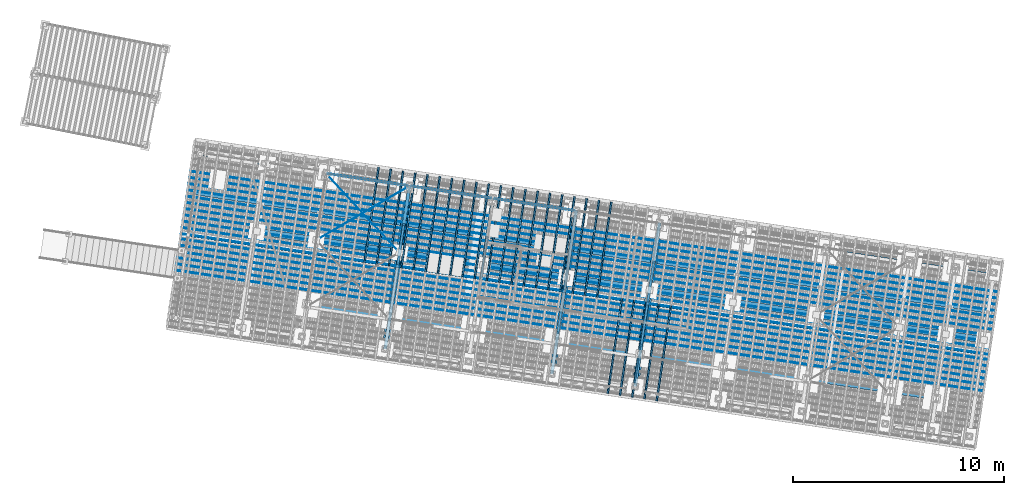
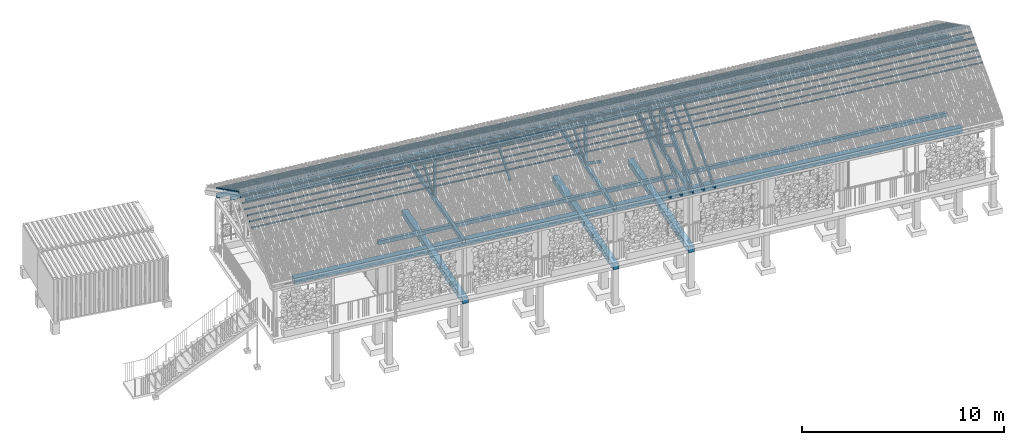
# One storey, part 81 of 131: 63 members, 11 beams, 2 elements without a shape of their own.
"""IFC4 building model written with IfcOpenShell, lengths in metres."""

from ifc_helpers import new_model, si_unit, direction, frame, origin_with_axes, place, context, subcontext, project, spatial, polyline, rectangle, outline, extrude, material, material_profile, profile_set, profile_usage, type_object, element, aggregate, save


model = new_model("IFC4")

# Units and contexts
model_context = context("Model", 3, precision=1e-05, world=origin_with_axes(), true_north=direction((0.0, 1.0)))
body_context = subcontext(model_context, "Body", "Model", "MODEL_VIEW")
ifc_project = project(units=[si_unit("VOLUMEUNIT", "CUBIC_METRE"), si_unit("LENGTHUNIT", "METRE"), si_unit("AREAUNIT", "SQUARE_METRE")], contexts=[model_context])

# Site, building, storey
site_placement = place(None, origin_with_axes())
site = spatial("IfcSite", under=ifc_project, at=site_placement, Name="Lares · Rua das Mercês · artigo 4771")
building_placement = place(site_placement, frame((15.0, 9.7, 15.8), z_axis=(0.0, 0.0, 1.0), x_axis=(0.989015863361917, -0.147809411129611, 0.0)))
building = spatial("IfcBuilding", under=site, at=building_placement, Name="Casa Sobreposta")
storey_placement = place(building_placement, origin_with_axes())
storey = spatial("IfcBuildingStorey", under=building, at=storey_placement, Name="00 · Habitação e estacionamento", Elevation=15.8)

# Beam
ifc_material_1 = material(Name="Madeira / Bauholz", Category="wood")
ifc_material_profile_1 = material_profile(ifc_material_1, rectangle(XDim=0.16, YDim=0.22))
ifc_profile_set_1 = profile_set([ifc_material_profile_1], Name="TIMBER0.160x0.220")
ifc_profile_usage_1 = profile_usage(ifc_profile_set_1)
beam_type_1 = type_object("IfcBeamType", Name="TIMBER0.160x0.220 / timber", PredefinedType="NOTDEFINED", material=ifc_profile_set_1)
beam_1_placement = place(storey_placement, frame((0.0, 0.12, 3.0), z_axis=(1.0, 0.0, 0.0), x_axis=(0.0, -1.0, 0.0)))
element("IfcBeam", 1, at=beam_1_placement, inside=storey, type_object=beam_type_1, material=ifc_profile_usage_1, Name="Cobertura · frechal longitudinal", context=body_context, shape_type="SweptSolid", body=[
    extrude(rectangle(XDim=0.16, YDim=0.22), origin_with_axes(), (0.0, 0.0, 1.0), 30.22),
])

# Members
ifc_material_2 = material(Name="Aço pintado / Stahl lackiert", Category="steel")
ifc_material_profile_2 = material_profile(ifc_material_2, rectangle(XDim=0.035, YDim=0.035))
ifc_profile_set_2 = profile_set([ifc_material_profile_2], Name="R0.035")
ifc_profile_usage_2 = profile_usage(ifc_profile_set_2)
member_type_1 = type_object("IfcMemberType", Name="R0.035 / steel", PredefinedType="NOTDEFINED", material=ifc_profile_set_2)
member_1_placement = place(storey_placement, frame((0.08, 6.4, 2.35), z_axis=(1.0, 0.0, 0.0), x_axis=(0.0, -1.0, 0.0)))
element("IfcMember", 2, at=member_1_placement, inside=storey, type_object=member_type_1, material=ifc_profile_usage_2, Name="Rasgo norte 1 · travessa", context=body_context, shape_type="SweptSolid", body=[
    extrude(rectangle(XDim=0.035, YDim=0.035), origin_with_axes(), (0.0, 0.0, 1.0), 3.84),
])
ifc_profile_usage_3 = profile_usage(ifc_profile_set_2)
member_2_placement = place(storey_placement, frame((0.08, 6.4, 2.7), z_axis=(1.0, 0.0, 0.0), x_axis=(0.0, -1.0, 0.0)))
element("IfcMember", 3, at=member_2_placement, inside=storey, type_object=member_type_1, material=ifc_profile_usage_3, Name="Rasgo norte 1 · travessa", context=body_context, shape_type="SweptSolid", body=[
    extrude(rectangle(XDim=0.035, YDim=0.035), origin_with_axes(), (0.0, 0.0, 1.0), 3.84),
])
ifc_profile_usage_4 = profile_usage(ifc_profile_set_2)
member_3_placement = place(storey_placement, frame((4.08, 6.4, 2.35), z_axis=(1.0, 0.0, 0.0), x_axis=(0.0, -1.0, 0.0)))
element("IfcMember", 4, at=member_3_placement, inside=storey, type_object=member_type_1, material=ifc_profile_usage_4, Name="Rasgo norte 2 · travessa", context=body_context, shape_type="SweptSolid", body=[
    extrude(rectangle(XDim=0.035, YDim=0.035), origin_with_axes(), (0.0, 0.0, 1.0), 3.84),
])
ifc_profile_usage_5 = profile_usage(ifc_profile_set_2)
member_4_placement = place(storey_placement, frame((4.08, 6.4, 2.7), z_axis=(1.0, 0.0, 0.0), x_axis=(0.0, -1.0, 0.0)))
element("IfcMember", 5, at=member_4_placement, inside=storey, type_object=member_type_1, material=ifc_profile_usage_5, Name="Rasgo norte 2 · travessa", context=body_context, shape_type="SweptSolid", body=[
    extrude(rectangle(XDim=0.035, YDim=0.035), origin_with_axes(), (0.0, 0.0, 1.0), 3.84),
])
ifc_profile_usage_6 = profile_usage(ifc_profile_set_2)
member_5_placement = place(storey_placement, frame((8.08, 6.4, 2.35), z_axis=(1.0, 0.0, 0.0), x_axis=(0.0, -1.0, 0.0)))
element("IfcMember", 6, at=member_5_placement, inside=storey, type_object=member_type_1, material=ifc_profile_usage_6, Name="Rasgo norte 3 · travessa", context=body_context, shape_type="SweptSolid", body=[
    extrude(rectangle(XDim=0.035, YDim=0.035), origin_with_axes(), (0.0, 0.0, 1.0), 3.84),
])
ifc_profile_usage_7 = profile_usage(ifc_profile_set_2)
member_6_placement = place(storey_placement, frame((8.08, 6.4, 2.7), z_axis=(1.0, 0.0, 0.0), x_axis=(0.0, -1.0, 0.0)))
element("IfcMember", 7, at=member_6_placement, inside=storey, type_object=member_type_1, material=ifc_profile_usage_7, Name="Rasgo norte 3 · travessa", context=body_context, shape_type="SweptSolid", body=[
    extrude(rectangle(XDim=0.035, YDim=0.035), origin_with_axes(), (0.0, 0.0, 1.0), 3.84),
])

# Roof, beams, members
roof_placement = place(storey_placement, origin_with_axes())
roof = element("IfcRoof", 8, at=roof_placement, inside=storey, material=ifc_material_1, Name="Cobertura de telha · duas águas 30 graus", PredefinedType="GABLE_ROOF")
ifc_material_profile_3 = material_profile(ifc_material_1, rectangle(XDim=0.16, YDim=0.24))
ifc_profile_set_3 = profile_set([ifc_material_profile_3], Name="TIMBER0.160x0.240")
ifc_profile_usage_8 = profile_usage(ifc_profile_set_3)
beam_type_2 = type_object("IfcBeamType", Name="TIMBER0.160x0.240 / timber", PredefinedType="NOTDEFINED", material=ifc_profile_set_3)
beam_2_placement = place(roof_placement, frame((4.0, -1.43, 3.02), z_axis=(0.0, 1.0, 0.0), x_axis=(1.0, 0.0, 0.0)))
beam_2 = element("IfcBeam", 9, at=beam_2_placement, type_object=beam_type_2, material=ifc_profile_usage_8, Name="Tesoura · tirante inferior", context=body_context, shape_type="SweptSolid", body=[
    extrude(rectangle(XDim=0.16, YDim=0.24), origin_with_axes(), (0.0, 0.0, 1.0), 7.86),
])
ifc_profile_usage_9 = profile_usage(ifc_profile_set_3)
beam_3_placement = place(roof_placement, frame((12.0, -1.43, 3.02), z_axis=(0.0, 1.0, 0.0), x_axis=(1.0, 0.0, 0.0)))
beam_3 = element("IfcBeam", 10, at=beam_3_placement, type_object=beam_type_2, material=ifc_profile_usage_9, Name="Tesoura · tirante inferior", context=body_context, shape_type="SweptSolid", body=[
    extrude(rectangle(XDim=0.16, YDim=0.24), origin_with_axes(), (0.0, 0.0, 1.0), 7.86),
])
ifc_profile_usage_10 = profile_usage(ifc_profile_set_3)
beam_4_placement = place(roof_placement, frame((16.0, -1.43, 3.02), z_axis=(0.0, 1.0, 0.0), x_axis=(1.0, 0.0, 0.0)))
beam_4 = element("IfcBeam", 11, at=beam_4_placement, type_object=beam_type_2, material=ifc_profile_usage_10, Name="Tesoura · tirante inferior", context=body_context, shape_type="SweptSolid", body=[
    extrude(rectangle(XDim=0.16, YDim=0.24), origin_with_axes(), (0.0, 0.0, 1.0), 7.86),
])
ifc_material_profile_4 = material_profile(ifc_material_1, rectangle(XDim=0.16, YDim=0.24))
ifc_profile_set_4 = profile_set([ifc_material_profile_4], Name="TIMBER0.160x0.240")
ifc_profile_usage_11 = profile_usage(ifc_profile_set_4)
member_type_2 = type_object("IfcMemberType", Name="TIMBER0.160x0.240 / timber", PredefinedType="NOTDEFINED", material=ifc_profile_set_4)
member_7_placement = place(roof_placement, frame((4.0, 2.55, 5.74420869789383), z_axis=(0.0, 0.866025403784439, -0.5), x_axis=(1.0, 0.0, 0.0)))
member_7 = element("IfcMember", 12, at=member_7_placement, type_object=member_type_2, material=ifc_profile_usage_11, Name="Tesoura · perna", context=body_context, shape_type="SweptSolid", body=[
    extrude(rectangle(XDim=0.16, YDim=0.24), origin_with_axes(), (0.0, 0.0, 1.0), 4.4802380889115),
])
ifc_profile_usage_12 = profile_usage(ifc_profile_set_4)
member_8_placement = place(roof_placement, frame((8.0, 2.55, 5.74420869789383), z_axis=(0.0, 0.866025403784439, -0.5), x_axis=(1.0, 0.0, 0.0)))
member_8 = element("IfcMember", 13, at=member_8_placement, type_object=member_type_2, material=ifc_profile_usage_12, Name="Tesoura · perna", context=body_context, shape_type="SweptSolid", body=[
    extrude(rectangle(XDim=0.16, YDim=0.24), origin_with_axes(), (0.0, 0.0, 1.0), 4.4802380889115),
])
ifc_profile_usage_13 = profile_usage(ifc_profile_set_4)
member_9_placement = place(roof_placement, frame((12.0, 2.55, 5.74420869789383), z_axis=(0.0, 0.866025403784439, -0.5), x_axis=(1.0, 0.0, 0.0)))
member_9 = element("IfcMember", 14, at=member_9_placement, type_object=member_type_2, material=ifc_profile_usage_13, Name="Tesoura · perna", context=body_context, shape_type="SweptSolid", body=[
    extrude(rectangle(XDim=0.16, YDim=0.24), origin_with_axes(), (0.0, 0.0, 1.0), 4.4802380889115),
])
ifc_profile_usage_14 = profile_usage(ifc_profile_set_4)
member_10_placement = place(roof_placement, frame((16.0, -1.43, 3.44635462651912), z_axis=(0.0, 0.866025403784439, 0.5), x_axis=(1.0, 0.0, 0.0)))
member_10 = element("IfcMember", 15, at=member_10_placement, type_object=member_type_2, material=ifc_profile_usage_14, Name="Tesoura · perna", context=body_context, shape_type="SweptSolid", body=[
    extrude(rectangle(XDim=0.16, YDim=0.24), origin_with_axes(), (0.0, 0.0, 1.0), 4.59570814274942),
])
ifc_material_profile_5 = material_profile(ifc_material_1, rectangle(XDim=0.14, YDim=0.14))
ifc_profile_set_5 = profile_set([ifc_material_profile_5], Name="TIMBER0.140x0.140")
ifc_profile_usage_15 = profile_usage(ifc_profile_set_5)
member_type_3 = type_object("IfcMemberType", Name="TIMBER0.140x0.140 / timber", PredefinedType="NOTDEFINED", material=ifc_profile_set_5)
member_11_placement = place(roof_placement, frame((4.0, 2.55, 3.02), z_axis=(0.0, 0.0, 1.0), x_axis=(1.0, 0.0, 0.0)))
member_11 = element("IfcMember", 16, at=member_11_placement, type_object=member_type_3, material=ifc_profile_usage_15, Name="Tesoura · pendural", context=body_context, shape_type="SweptSolid", body=[
    extrude(rectangle(XDim=0.14, YDim=0.14), origin_with_axes(), (0.0, 0.0, 1.0), 2.72420869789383),
])
ifc_profile_usage_16 = profile_usage(ifc_profile_set_5)
member_12_placement = place(roof_placement, frame((12.0, 2.55, 3.02), z_axis=(0.0, 0.0, 1.0), x_axis=(1.0, 0.0, 0.0)))
member_12 = element("IfcMember", 17, at=member_12_placement, type_object=member_type_3, material=ifc_profile_usage_16, Name="Tesoura · pendural", context=body_context, shape_type="SweptSolid", body=[
    extrude(rectangle(XDim=0.14, YDim=0.14), origin_with_axes(), (0.0, 0.0, 1.0), 2.72420869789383),
])
ifc_profile_usage_17 = profile_usage(ifc_profile_set_5)
member_13_placement = place(roof_placement, frame((16.0, 2.55, 3.02), z_axis=(0.0, 0.0, 1.0), x_axis=(1.0, 0.0, 0.0)))
member_13 = element("IfcMember", 18, at=member_13_placement, type_object=member_type_3, material=ifc_profile_usage_17, Name="Tesoura · pendural", context=body_context, shape_type="SweptSolid", body=[
    extrude(rectangle(XDim=0.14, YDim=0.14), origin_with_axes(), (0.0, 0.0, 1.0), 2.72420869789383),
])
ifc_material_profile_6 = material_profile(ifc_material_1, rectangle(XDim=0.1, YDim=0.16))
ifc_profile_set_6 = profile_set([ifc_material_profile_6], Name="TIMBER0.100x0.160")
ifc_profile_usage_18 = profile_usage(ifc_profile_set_6)
member_type_4 = type_object("IfcMemberType", Name="TIMBER0.100x0.160 / timber", PredefinedType="NOTDEFINED", material=ifc_profile_set_6)
member_14_placement = place(roof_placement, frame((4.0, 2.55, 3.1), z_axis=(0.0, 0.816439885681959, 0.577430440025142), x_axis=(1.0, 0.0, 0.0)))
member_14 = element("IfcMember", 19, at=member_14_placement, type_object=member_type_4, material=ifc_profile_usage_18, Name="Tesoura · escora", context=body_context, shape_type="SweptSolid", body=[
    extrude(rectangle(XDim=0.1, YDim=0.16), origin_with_axes(), (0.0, 0.0, 1.0), 2.44965984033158),
])
ifc_profile_usage_19 = profile_usage(ifc_profile_set_6)
member_15_placement = place(roof_placement, frame((8.0, 2.55, 3.1), z_axis=(0.0, 0.816439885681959, 0.577430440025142), x_axis=(1.0, 0.0, 0.0)))
member_15 = element("IfcMember", 20, at=member_15_placement, type_object=member_type_4, material=ifc_profile_usage_19, Name="Tesoura · escora", context=body_context, shape_type="SweptSolid", body=[
    extrude(rectangle(XDim=0.1, YDim=0.16), origin_with_axes(), (0.0, 0.0, 1.0), 2.44965984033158),
])
ifc_profile_usage_20 = profile_usage(ifc_profile_set_6)
member_16_placement = place(roof_placement, frame((12.0, 2.55, 3.1), z_axis=(0.0, -0.816439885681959, 0.577430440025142), x_axis=(-1.0, 0.0, 0.0)))
member_16 = element("IfcMember", 21, at=member_16_placement, type_object=member_type_4, material=ifc_profile_usage_20, Name="Tesoura · escora", context=body_context, shape_type="SweptSolid", body=[
    extrude(rectangle(XDim=0.1, YDim=0.16), origin_with_axes(), (0.0, 0.0, 1.0), 2.44965984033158),
])
ifc_profile_usage_21 = profile_usage(ifc_profile_set_6)
member_17_placement = place(roof_placement, frame((12.0, 2.55, 3.1), z_axis=(0.0, 0.816439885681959, 0.577430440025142), x_axis=(1.0, 0.0, 0.0)))
member_17 = element("IfcMember", 22, at=member_17_placement, type_object=member_type_4, material=ifc_profile_usage_21, Name="Tesoura · escora", context=body_context, shape_type="SweptSolid", body=[
    extrude(rectangle(XDim=0.1, YDim=0.16), origin_with_axes(), (0.0, 0.0, 1.0), 2.44965984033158),
])
ifc_profile_usage_22 = profile_usage(ifc_profile_set_6)
member_18_placement = place(roof_placement, frame((16.0, 2.55, 3.1), z_axis=(0.0, -0.816439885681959, 0.577430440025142), x_axis=(-1.0, 0.0, 0.0)))
member_18 = element("IfcMember", 23, at=member_18_placement, type_object=member_type_4, material=ifc_profile_usage_22, Name="Tesoura · escora", context=body_context, shape_type="SweptSolid", body=[
    extrude(rectangle(XDim=0.1, YDim=0.16), origin_with_axes(), (0.0, 0.0, 1.0), 2.44965984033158),
])
ifc_profile_usage_23 = profile_usage(ifc_profile_set_6)
member_19_placement = place(roof_placement, frame((16.0, 2.55, 3.1), z_axis=(0.0, 0.816439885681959, 0.577430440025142), x_axis=(1.0, 0.0, 0.0)))
member_19 = element("IfcMember", 24, at=member_19_placement, type_object=member_type_4, material=ifc_profile_usage_23, Name="Tesoura · escora", context=body_context, shape_type="SweptSolid", body=[
    extrude(rectangle(XDim=0.1, YDim=0.16), origin_with_axes(), (0.0, 0.0, 1.0), 2.44965984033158),
])
ifc_material_profile_7 = material_profile(ifc_material_1, rectangle(XDim=0.08, YDim=0.24))
ifc_profile_set_7 = profile_set([ifc_material_profile_7], Name="TIMBER0.080x0.240")
ifc_profile_usage_24 = profile_usage(ifc_profile_set_7)
member_type_5 = type_object("IfcMemberType", Name="TIMBER0.080x0.240 / timber", PredefinedType="NOTDEFINED", material=ifc_profile_set_7)
member_20_placement = place(roof_placement, frame((2.41818181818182, 2.55, 5.75020869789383), z_axis=(0.0, 0.866025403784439, -0.5), x_axis=(1.0, 0.0, 0.0)))
member_20 = element("IfcMember", 25, at=member_20_placement, type_object=member_type_5, material=ifc_profile_usage_24, Name="Cobertura · caibro", context=body_context, shape_type="SweptSolid", body=[
    extrude(rectangle(XDim=0.08, YDim=0.24), origin_with_axes(), (0.0, 0.0, 1.0), 5.13841739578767),
])
ifc_profile_usage_25 = profile_usage(ifc_profile_set_7)
member_21_placement = place(roof_placement, frame((3.00606060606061, 2.55, 5.75020869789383), z_axis=(0.0, 0.866025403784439, -0.5), x_axis=(1.0, 0.0, 0.0)))
member_21 = element("IfcMember", 26, at=member_21_placement, type_object=member_type_5, material=ifc_profile_usage_25, Name="Cobertura · caibro", context=body_context, shape_type="SweptSolid", body=[
    extrude(rectangle(XDim=0.08, YDim=0.24), origin_with_axes(), (0.0, 0.0, 1.0), 5.13841739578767),
])
ifc_profile_usage_26 = profile_usage(ifc_profile_set_7)
member_22_placement = place(roof_placement, frame((3.59393939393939, 2.55, 5.75020869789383), z_axis=(0.0, 0.866025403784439, -0.5), x_axis=(1.0, 0.0, 0.0)))
member_22 = element("IfcMember", 27, at=member_22_placement, type_object=member_type_5, material=ifc_profile_usage_26, Name="Cobertura · caibro", context=body_context, shape_type="SweptSolid", body=[
    extrude(rectangle(XDim=0.08, YDim=0.24), origin_with_axes(), (0.0, 0.0, 1.0), 5.13841739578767),
])
ifc_profile_usage_27 = profile_usage(ifc_profile_set_7)
member_23_placement = place(roof_placement, frame((4.18181818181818, 2.55, 5.75020869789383), z_axis=(0.0, 0.866025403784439, -0.5), x_axis=(1.0, 0.0, 0.0)))
member_23 = element("IfcMember", 28, at=member_23_placement, type_object=member_type_5, material=ifc_profile_usage_27, Name="Cobertura · caibro", context=body_context, shape_type="SweptSolid", body=[
    extrude(rectangle(XDim=0.08, YDim=0.24), origin_with_axes(), (0.0, 0.0, 1.0), 5.13841739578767),
])
ifc_profile_usage_28 = profile_usage(ifc_profile_set_7)
member_24_placement = place(roof_placement, frame((4.76969696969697, 2.55, 5.75020869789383), z_axis=(0.0, 0.866025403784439, -0.5), x_axis=(1.0, 0.0, 0.0)))
member_24 = element("IfcMember", 29, at=member_24_placement, type_object=member_type_5, material=ifc_profile_usage_28, Name="Cobertura · caibro", context=body_context, shape_type="SweptSolid", body=[
    extrude(rectangle(XDim=0.08, YDim=0.24), origin_with_axes(), (0.0, 0.0, 1.0), 5.13841739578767),
])
ifc_profile_usage_29 = profile_usage(ifc_profile_set_7)
member_25_placement = place(roof_placement, frame((5.35757575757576, 2.55, 5.75020869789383), z_axis=(0.0, 0.866025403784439, -0.5), x_axis=(1.0, 0.0, 0.0)))
member_25 = element("IfcMember", 30, at=member_25_placement, type_object=member_type_5, material=ifc_profile_usage_29, Name="Cobertura · caibro", context=body_context, shape_type="SweptSolid", body=[
    extrude(rectangle(XDim=0.08, YDim=0.24), origin_with_axes(), (0.0, 0.0, 1.0), 5.13841739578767),
])
ifc_profile_usage_30 = profile_usage(ifc_profile_set_7)
member_26_placement = place(roof_placement, frame((5.94545454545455, 2.55, 5.75020869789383), z_axis=(0.0, 0.866025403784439, -0.5), x_axis=(1.0, 0.0, 0.0)))
member_26 = element("IfcMember", 31, at=member_26_placement, type_object=member_type_5, material=ifc_profile_usage_30, Name="Cobertura · caibro", context=body_context, shape_type="SweptSolid", body=[
    extrude(rectangle(XDim=0.08, YDim=0.24), origin_with_axes(), (0.0, 0.0, 1.0), 5.13841739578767),
])
ifc_profile_usage_31 = profile_usage(ifc_profile_set_7)
member_27_placement = place(roof_placement, frame((6.53333333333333, 2.55, 5.75020869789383), z_axis=(0.0, 0.866025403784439, -0.5), x_axis=(1.0, 0.0, 0.0)))
member_27 = element("IfcMember", 32, at=member_27_placement, type_object=member_type_5, material=ifc_profile_usage_31, Name="Cobertura · caibro", context=body_context, shape_type="SweptSolid", body=[
    extrude(rectangle(XDim=0.08, YDim=0.24), origin_with_axes(), (0.0, 0.0, 1.0), 5.13841739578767),
])
ifc_profile_usage_32 = profile_usage(ifc_profile_set_7)
member_28_placement = place(roof_placement, frame((7.12121212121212, 2.55, 5.75020869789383), z_axis=(0.0, 0.866025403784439, -0.5), x_axis=(1.0, 0.0, 0.0)))
member_28 = element("IfcMember", 33, at=member_28_placement, type_object=member_type_5, material=ifc_profile_usage_32, Name="Cobertura · caibro", context=body_context, shape_type="SweptSolid", body=[
    extrude(rectangle(XDim=0.08, YDim=0.24), origin_with_axes(), (0.0, 0.0, 1.0), 5.13841739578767),
])
ifc_profile_usage_33 = profile_usage(ifc_profile_set_7)
member_29_placement = place(roof_placement, frame((7.70909090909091, 2.55, 5.75020869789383), z_axis=(0.0, 0.866025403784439, -0.5), x_axis=(1.0, 0.0, 0.0)))
member_29 = element("IfcMember", 34, at=member_29_placement, type_object=member_type_5, material=ifc_profile_usage_33, Name="Cobertura · caibro", context=body_context, shape_type="SweptSolid", body=[
    extrude(rectangle(XDim=0.08, YDim=0.24), origin_with_axes(), (0.0, 0.0, 1.0), 5.13841739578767),
])
ifc_profile_usage_34 = profile_usage(ifc_profile_set_7)
member_30_placement = place(roof_placement, frame((8.2969696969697, 2.55, 5.75020869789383), z_axis=(0.0, 0.866025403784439, -0.5), x_axis=(1.0, 0.0, 0.0)))
member_30 = element("IfcMember", 35, at=member_30_placement, type_object=member_type_5, material=ifc_profile_usage_34, Name="Cobertura · caibro", context=body_context, shape_type="SweptSolid", body=[
    extrude(rectangle(XDim=0.08, YDim=0.24), origin_with_axes(), (0.0, 0.0, 1.0), 5.13841739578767),
])
ifc_profile_usage_35 = profile_usage(ifc_profile_set_7)
member_31_placement = place(roof_placement, frame((8.88484848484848, 2.55, 5.75020869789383), z_axis=(0.0, 0.866025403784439, -0.5), x_axis=(1.0, 0.0, 0.0)))
member_31 = element("IfcMember", 36, at=member_31_placement, type_object=member_type_5, material=ifc_profile_usage_35, Name="Cobertura · caibro", context=body_context, shape_type="SweptSolid", body=[
    extrude(rectangle(XDim=0.08, YDim=0.24), origin_with_axes(), (0.0, 0.0, 1.0), 5.13841739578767),
])
ifc_profile_usage_36 = profile_usage(ifc_profile_set_7)
member_32_placement = place(roof_placement, frame((9.47272727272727, 2.55, 5.75020869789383), z_axis=(0.0, 0.866025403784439, -0.5), x_axis=(1.0, 0.0, 0.0)))
member_32 = element("IfcMember", 37, at=member_32_placement, type_object=member_type_5, material=ifc_profile_usage_36, Name="Cobertura · caibro", context=body_context, shape_type="SweptSolid", body=[
    extrude(rectangle(XDim=0.08, YDim=0.24), origin_with_axes(), (0.0, 0.0, 1.0), 5.13841739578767),
])
ifc_profile_usage_37 = profile_usage(ifc_profile_set_7)
member_33_placement = place(roof_placement, frame((10.0606060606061, 2.55, 5.75020869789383), z_axis=(0.0, 0.866025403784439, -0.5), x_axis=(1.0, 0.0, 0.0)))
member_33 = element("IfcMember", 38, at=member_33_placement, type_object=member_type_5, material=ifc_profile_usage_37, Name="Cobertura · caibro", context=body_context, shape_type="SweptSolid", body=[
    extrude(rectangle(XDim=0.08, YDim=0.24), origin_with_axes(), (0.0, 0.0, 1.0), 5.13841739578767),
])
ifc_profile_usage_38 = profile_usage(ifc_profile_set_7)
member_34_placement = place(roof_placement, frame((10.6484848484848, 2.55, 5.75020869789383), z_axis=(0.0, 0.866025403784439, -0.5), x_axis=(1.0, 0.0, 0.0)))
member_34 = element("IfcMember", 39, at=member_34_placement, type_object=member_type_5, material=ifc_profile_usage_38, Name="Cobertura · caibro", context=body_context, shape_type="SweptSolid", body=[
    extrude(rectangle(XDim=0.08, YDim=0.24), origin_with_axes(), (0.0, 0.0, 1.0), 5.13841739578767),
])
ifc_profile_usage_39 = profile_usage(ifc_profile_set_7)
member_35_placement = place(roof_placement, frame((11.2363636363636, 2.55, 5.75020869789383), z_axis=(0.0, 0.866025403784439, -0.5), x_axis=(1.0, 0.0, 0.0)))
member_35 = element("IfcMember", 40, at=member_35_placement, type_object=member_type_5, material=ifc_profile_usage_39, Name="Cobertura · caibro", context=body_context, shape_type="SweptSolid", body=[
    extrude(rectangle(XDim=0.08, YDim=0.24), origin_with_axes(), (0.0, 0.0, 1.0), 5.13841739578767),
])
ifc_profile_usage_40 = profile_usage(ifc_profile_set_7)
member_36_placement = place(roof_placement, frame((11.8242424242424, 2.55, 5.75020869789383), z_axis=(0.0, 0.866025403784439, -0.5), x_axis=(1.0, 0.0, 0.0)))
member_36 = element("IfcMember", 41, at=member_36_placement, type_object=member_type_5, material=ifc_profile_usage_40, Name="Cobertura · caibro", context=body_context, shape_type="SweptSolid", body=[
    extrude(rectangle(XDim=0.08, YDim=0.24), origin_with_axes(), (0.0, 0.0, 1.0), 5.13841739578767),
])
ifc_profile_usage_41 = profile_usage(ifc_profile_set_7)
member_37_placement = place(roof_placement, frame((12.4121212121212, 2.55, 5.75020869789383), z_axis=(0.0, 0.866025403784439, -0.5), x_axis=(1.0, 0.0, 0.0)))
member_37 = element("IfcMember", 42, at=member_37_placement, type_object=member_type_5, material=ifc_profile_usage_41, Name="Cobertura · caibro", context=body_context, shape_type="SweptSolid", body=[
    extrude(rectangle(XDim=0.08, YDim=0.24), origin_with_axes(), (0.0, 0.0, 1.0), 5.13841739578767),
])
ifc_profile_usage_42 = profile_usage(ifc_profile_set_7)
member_38_placement = place(roof_placement, frame((13.0, 2.55, 5.75020869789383), z_axis=(0.0, 0.866025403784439, -0.5), x_axis=(1.0, 0.0, 0.0)))
member_38 = element("IfcMember", 43, at=member_38_placement, type_object=member_type_5, material=ifc_profile_usage_42, Name="Cobertura · caibro", context=body_context, shape_type="SweptSolid", body=[
    extrude(rectangle(XDim=0.08, YDim=0.24), origin_with_axes(), (0.0, 0.0, 1.0), 5.13841739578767),
])
ifc_profile_usage_43 = profile_usage(ifc_profile_set_7)
member_39_placement = place(roof_placement, frame((13.5878787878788, 2.55, 5.75020869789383), z_axis=(0.0, 0.866025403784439, -0.5), x_axis=(1.0, 0.0, 0.0)))
member_39 = element("IfcMember", 44, at=member_39_placement, type_object=member_type_5, material=ifc_profile_usage_43, Name="Cobertura · caibro", context=body_context, shape_type="SweptSolid", body=[
    extrude(rectangle(XDim=0.08, YDim=0.24), origin_with_axes(), (0.0, 0.0, 1.0), 5.13841739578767),
])
ifc_profile_usage_44 = profile_usage(ifc_profile_set_7)
member_40_placement = place(roof_placement, frame((14.7636363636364, -1.9, 3.181), z_axis=(0.0, 0.866025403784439, 0.5), x_axis=(1.0, 0.0, 0.0)))
member_40 = element("IfcMember", 45, at=member_40_placement, type_object=member_type_5, material=ifc_profile_usage_44, Name="Cobertura · caibro", context=body_context, shape_type="SweptSolid", body=[
    extrude(rectangle(XDim=0.08, YDim=0.24), origin_with_axes(), (0.0, 0.0, 1.0), 5.13841739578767),
])
ifc_profile_usage_45 = profile_usage(ifc_profile_set_7)
member_41_placement = place(roof_placement, frame((15.3515151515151, -1.9, 3.181), z_axis=(0.0, 0.866025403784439, 0.5), x_axis=(1.0, 0.0, 0.0)))
member_41 = element("IfcMember", 46, at=member_41_placement, type_object=member_type_5, material=ifc_profile_usage_45, Name="Cobertura · caibro", context=body_context, shape_type="SweptSolid", body=[
    extrude(rectangle(XDim=0.08, YDim=0.24), origin_with_axes(), (0.0, 0.0, 1.0), 5.13841739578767),
])
ifc_profile_usage_46 = profile_usage(ifc_profile_set_7)
member_42_placement = place(roof_placement, frame((15.9393939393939, -1.9, 3.181), z_axis=(0.0, 0.866025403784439, 0.5), x_axis=(1.0, 0.0, 0.0)))
member_42 = element("IfcMember", 47, at=member_42_placement, type_object=member_type_5, material=ifc_profile_usage_46, Name="Cobertura · caibro", context=body_context, shape_type="SweptSolid", body=[
    extrude(rectangle(XDim=0.08, YDim=0.24), origin_with_axes(), (0.0, 0.0, 1.0), 5.13841739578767),
])
ifc_profile_usage_47 = profile_usage(ifc_profile_set_7)
member_43_placement = place(roof_placement, frame((16.5272727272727, -1.9, 3.181), z_axis=(0.0, 0.866025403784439, 0.5), x_axis=(1.0, 0.0, 0.0)))
member_43 = element("IfcMember", 48, at=member_43_placement, type_object=member_type_5, material=ifc_profile_usage_47, Name="Cobertura · caibro", context=body_context, shape_type="SweptSolid", body=[
    extrude(rectangle(XDim=0.08, YDim=0.24), origin_with_axes(), (0.0, 0.0, 1.0), 5.13841739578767),
])
ifc_profile_usage_48 = profile_usage(ifc_profile_set_7)
member_44_placement = place(roof_placement, frame((17.1151515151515, -1.9, 3.181), z_axis=(0.0, 0.866025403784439, 0.5), x_axis=(1.0, 0.0, 0.0)))
member_44 = element("IfcMember", 49, at=member_44_placement, type_object=member_type_5, material=ifc_profile_usage_48, Name="Cobertura · caibro", context=body_context, shape_type="SweptSolid", body=[
    extrude(rectangle(XDim=0.08, YDim=0.24), origin_with_axes(), (0.0, 0.0, 1.0), 5.13841739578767),
])
ifc_material_profile_8 = material_profile(ifc_material_1, rectangle(XDim=0.14, YDim=0.22))
ifc_profile_set_8 = profile_set([ifc_material_profile_8], Name="TIMBER0.140x0.220")
ifc_profile_usage_49 = profile_usage(ifc_profile_set_8)
beam_type_3 = type_object("IfcBeamType", Name="TIMBER0.140x0.220 / timber", PredefinedType="NOTDEFINED", material=ifc_profile_set_8)
beam_5_placement = place(roof_placement, frame((-6.05, 2.55, 5.49920869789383), z_axis=(1.0, 0.0, 0.0), x_axis=(0.0, -1.0, 0.0)))
beam_5 = element("IfcBeam", 50, at=beam_5_placement, type_object=beam_type_3, material=ifc_profile_usage_49, Name="Cobertura · terça", context=body_context, shape_type="SweptSolid", body=[
    extrude(rectangle(XDim=0.14, YDim=0.22), origin_with_axes(), (0.0, 0.0, 1.0), 38.1),
])
ifc_profile_usage_50 = profile_usage(ifc_profile_set_8)
beam_6_placement = place(roof_placement, frame((-6.05, 4.55, 4.34450815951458), z_axis=(1.0, 0.0, 0.0), x_axis=(0.0, -1.0, 0.0)))
beam_6 = element("IfcBeam", 51, at=beam_6_placement, type_object=beam_type_3, material=ifc_profile_usage_50, Name="Cobertura · terça", context=body_context, shape_type="SweptSolid", body=[
    extrude(rectangle(XDim=0.14, YDim=0.22), origin_with_axes(), (0.0, 0.0, 1.0), 38.1),
])
ifc_profile_usage_51 = profile_usage(ifc_profile_set_8)
beam_7_placement = place(roof_placement, frame((-6.05, 6.43, 3.25908965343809), z_axis=(1.0, 0.0, 0.0), x_axis=(0.0, -1.0, 0.0)))
beam_7 = element("IfcBeam", 52, at=beam_7_placement, type_object=beam_type_3, material=ifc_profile_usage_51, Name="Cobertura · terça", context=body_context, shape_type="SweptSolid", body=[
    extrude(rectangle(XDim=0.14, YDim=0.22), origin_with_axes(), (0.0, 0.0, 1.0), 38.1),
])
ifc_material_3 = material(Name="Aço galvanizado / Stahl verzinkt", Category="steel")
ifc_material_profile_9 = material_profile(ifc_material_3, rectangle(XDim=0.025, YDim=0.025))
ifc_profile_set_9 = profile_set([ifc_material_profile_9], Name="R0.025")
ifc_profile_usage_52 = profile_usage(ifc_profile_set_9)
member_type_6 = type_object("IfcMemberType", Name="R0.025 / galvanized", PredefinedType="NOTDEFINED", material=ifc_profile_set_9)
member_45_placement = place(roof_placement, frame((0.0, 3.2, 5.49593102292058), z_axis=(0.734553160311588, 0.58764252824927, -0.339275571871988), x_axis=(0.624695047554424, -0.78086880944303, 0.0)))
member_45 = element("IfcMember", 53, at=member_45_placement, type_object=member_type_6, material=ifc_profile_usage_52, Name="Cobertura · fita de contraventamento", context=body_context, shape_type="SweptSolid", body=[
    extrude(rectangle(XDim=0.025, YDim=0.025), origin_with_axes(), (0.0, 0.0, 1.0), 5.44548742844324),
])
ifc_profile_usage_53 = profile_usage(ifc_profile_set_9)
member_46_placement = place(roof_placement, frame((0.0, 6.4, 3.64841016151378), z_axis=(0.734553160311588, -0.58764252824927, 0.339275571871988), x_axis=(-0.624695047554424, -0.78086880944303, 0.0)))
member_46 = element("IfcMember", 54, at=member_46_placement, type_object=member_type_6, material=ifc_profile_usage_53, Name="Cobertura · fita de contraventamento", context=body_context, shape_type="SweptSolid", body=[
    extrude(rectangle(XDim=0.025, YDim=0.025), origin_with_axes(), (0.0, 0.0, 1.0), 5.44548742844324),
])
ifc_material_profile_10 = material_profile(ifc_material_1, rectangle(XDim=0.045, YDim=0.06))
ifc_profile_set_10 = profile_set([ifc_material_profile_10], Name="TIMBER0.045x0.060")
ifc_profile_usage_54 = profile_usage(ifc_profile_set_10)
member_type_7 = type_object("IfcMemberType", Name="TIMBER0.045x0.060 / timber", PredefinedType="NOTDEFINED", material=ifc_profile_set_10)
member_47_placement = place(roof_placement, frame((-6.4, 0.8, 5.09284572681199), z_axis=(1.0, 0.0, 0.0), x_axis=(0.0, -1.0, 0.0)))
member_47 = element("IfcMember", 55, at=member_47_placement, type_object=member_type_7, material=ifc_profile_usage_54, Name="Cobertura · ripa ventilada", context=body_context, shape_type="SweptSolid", body=[
    extrude(rectangle(XDim=0.045, YDim=0.06), origin_with_axes(), (0.0, 0.0, 1.0), 38.8),
])
ifc_profile_usage_55 = profile_usage(ifc_profile_set_10)
member_48_placement = place(roof_placement, frame((-6.4, 1.1, 5.26605080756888), z_axis=(1.0, 0.0, 0.0), x_axis=(0.0, -1.0, 0.0)))
member_48 = element("IfcMember", 56, at=member_48_placement, type_object=member_type_7, material=ifc_profile_usage_55, Name="Cobertura · ripa ventilada", context=body_context, shape_type="SweptSolid", body=[
    extrude(rectangle(XDim=0.045, YDim=0.06), origin_with_axes(), (0.0, 0.0, 1.0), 38.8),
])
ifc_profile_usage_56 = profile_usage(ifc_profile_set_10)
member_49_placement = place(roof_placement, frame((-6.4, 1.4, 5.43925588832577), z_axis=(1.0, 0.0, 0.0), x_axis=(0.0, -1.0, 0.0)))
member_49 = element("IfcMember", 57, at=member_49_placement, type_object=member_type_7, material=ifc_profile_usage_56, Name="Cobertura · ripa ventilada", context=body_context, shape_type="SweptSolid", body=[
    extrude(rectangle(XDim=0.045, YDim=0.06), origin_with_axes(), (0.0, 0.0, 1.0), 38.8),
])
ifc_profile_usage_57 = profile_usage(ifc_profile_set_10)
member_50_placement = place(roof_placement, frame((-6.4, 1.7, 5.61246096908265), z_axis=(1.0, 0.0, 0.0), x_axis=(0.0, -1.0, 0.0)))
member_50 = element("IfcMember", 58, at=member_50_placement, type_object=member_type_7, material=ifc_profile_usage_57, Name="Cobertura · ripa ventilada", context=body_context, shape_type="SweptSolid", body=[
    extrude(rectangle(XDim=0.045, YDim=0.06), origin_with_axes(), (0.0, 0.0, 1.0), 38.8),
])
ifc_profile_usage_58 = profile_usage(ifc_profile_set_10)
member_51_placement = place(roof_placement, frame((-6.4, 2.0, 5.78566604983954), z_axis=(1.0, 0.0, 0.0), x_axis=(0.0, -1.0, 0.0)))
member_51 = element("IfcMember", 59, at=member_51_placement, type_object=member_type_7, material=ifc_profile_usage_58, Name="Cobertura · ripa ventilada", context=body_context, shape_type="SweptSolid", body=[
    extrude(rectangle(XDim=0.045, YDim=0.06), origin_with_axes(), (0.0, 0.0, 1.0), 38.8),
])
ifc_profile_usage_59 = profile_usage(ifc_profile_set_10)
member_52_placement = place(roof_placement, frame((-6.4, 2.3, 5.95887113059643), z_axis=(1.0, 0.0, 0.0), x_axis=(0.0, -1.0, 0.0)))
member_52 = element("IfcMember", 60, at=member_52_placement, type_object=member_type_7, material=ifc_profile_usage_59, Name="Cobertura · ripa ventilada", context=body_context, shape_type="SweptSolid", body=[
    extrude(rectangle(XDim=0.045, YDim=0.06), origin_with_axes(), (0.0, 0.0, 1.0), 38.8),
])
ifc_profile_usage_60 = profile_usage(ifc_profile_set_10)
member_53_placement = place(roof_placement, frame((-6.4, 2.55, 6.10320869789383), z_axis=(1.0, 0.0, 0.0), x_axis=(0.0, -1.0, 0.0)))
member_53 = element("IfcMember", 61, at=member_53_placement, type_object=member_type_7, material=ifc_profile_usage_60, Name="Cobertura · ripa ventilada", context=body_context, shape_type="SweptSolid", body=[
    extrude(rectangle(XDim=0.045, YDim=0.06), origin_with_axes(), (0.0, 0.0, 1.0), 38.8),
])
ifc_profile_usage_61 = profile_usage(ifc_profile_set_10)
member_54_placement = place(roof_placement, frame((-6.4, 2.85, 5.93000361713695), z_axis=(1.0, 0.0, 0.0), x_axis=(0.0, -1.0, 0.0)))
member_54 = element("IfcMember", 62, at=member_54_placement, type_object=member_type_7, material=ifc_profile_usage_61, Name="Cobertura · ripa ventilada", context=body_context, shape_type="SweptSolid", body=[
    extrude(rectangle(XDim=0.045, YDim=0.06), origin_with_axes(), (0.0, 0.0, 1.0), 38.8),
])
ifc_profile_usage_62 = profile_usage(ifc_profile_set_10)
member_55_placement = place(roof_placement, frame((-6.4, 3.15, 5.75679853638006), z_axis=(1.0, 0.0, 0.0), x_axis=(0.0, -1.0, 0.0)))
member_55 = element("IfcMember", 63, at=member_55_placement, type_object=member_type_7, material=ifc_profile_usage_62, Name="Cobertura · ripa ventilada", context=body_context, shape_type="SweptSolid", body=[
    extrude(rectangle(XDim=0.045, YDim=0.06), origin_with_axes(), (0.0, 0.0, 1.0), 38.8),
])
ifc_profile_usage_63 = profile_usage(ifc_profile_set_10)
member_56_placement = place(roof_placement, frame((-6.4, 3.45, 5.58359345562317), z_axis=(1.0, 0.0, 0.0), x_axis=(0.0, -1.0, 0.0)))
member_56 = element("IfcMember", 64, at=member_56_placement, type_object=member_type_7, material=ifc_profile_usage_63, Name="Cobertura · ripa ventilada", context=body_context, shape_type="SweptSolid", body=[
    extrude(rectangle(XDim=0.045, YDim=0.06), origin_with_axes(), (0.0, 0.0, 1.0), 38.8),
])
ifc_profile_usage_64 = profile_usage(ifc_profile_set_10)
member_57_placement = place(roof_placement, frame((-6.4, 3.75, 5.41038837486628), z_axis=(1.0, 0.0, 0.0), x_axis=(0.0, -1.0, 0.0)))
member_57 = element("IfcMember", 65, at=member_57_placement, type_object=member_type_7, material=ifc_profile_usage_64, Name="Cobertura · ripa ventilada", context=body_context, shape_type="SweptSolid", body=[
    extrude(rectangle(XDim=0.045, YDim=0.06), origin_with_axes(), (0.0, 0.0, 1.0), 38.8),
])
ifc_profile_usage_65 = profile_usage(ifc_profile_set_10)
member_58_placement = place(roof_placement, frame((-6.4, 4.05, 5.2371832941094), z_axis=(1.0, 0.0, 0.0), x_axis=(0.0, -1.0, 0.0)))
member_58 = element("IfcMember", 66, at=member_58_placement, type_object=member_type_7, material=ifc_profile_usage_65, Name="Cobertura · ripa ventilada", context=body_context, shape_type="SweptSolid", body=[
    extrude(rectangle(XDim=0.045, YDim=0.06), origin_with_axes(), (0.0, 0.0, 1.0), 38.8),
])
ifc_profile_usage_66 = profile_usage(ifc_profile_set_10)
member_59_placement = place(roof_placement, frame((-6.4, 4.35, 5.06397821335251), z_axis=(1.0, 0.0, 0.0), x_axis=(0.0, -1.0, 0.0)))
member_59 = element("IfcMember", 67, at=member_59_placement, type_object=member_type_7, material=ifc_profile_usage_66, Name="Cobertura · ripa ventilada", context=body_context, shape_type="SweptSolid", body=[
    extrude(rectangle(XDim=0.045, YDim=0.06), origin_with_axes(), (0.0, 0.0, 1.0), 38.8),
])
ifc_profile_usage_67 = profile_usage(ifc_profile_set_10)
member_60_placement = place(roof_placement, frame((-6.4, 4.65, 4.89077313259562), z_axis=(1.0, 0.0, 0.0), x_axis=(0.0, -1.0, 0.0)))
member_60 = element("IfcMember", 68, at=member_60_placement, type_object=member_type_7, material=ifc_profile_usage_67, Name="Cobertura · ripa ventilada", context=body_context, shape_type="SweptSolid", body=[
    extrude(rectangle(XDim=0.045, YDim=0.06), origin_with_axes(), (0.0, 0.0, 1.0), 38.8),
])
ifc_profile_usage_68 = profile_usage(ifc_profile_set_10)
member_61_placement = place(roof_placement, frame((-6.4, 4.95, 4.71756805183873), z_axis=(1.0, 0.0, 0.0), x_axis=(0.0, -1.0, 0.0)))
member_61 = element("IfcMember", 69, at=member_61_placement, type_object=member_type_7, material=ifc_profile_usage_68, Name="Cobertura · ripa ventilada", context=body_context, shape_type="SweptSolid", body=[
    extrude(rectangle(XDim=0.045, YDim=0.06), origin_with_axes(), (0.0, 0.0, 1.0), 38.8),
])
ifc_profile_usage_69 = profile_usage(ifc_profile_set_10)
member_62_placement = place(roof_placement, frame((-6.4, 5.25, 4.54436297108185), z_axis=(1.0, 0.0, 0.0), x_axis=(0.0, -1.0, 0.0)))
member_62 = element("IfcMember", 70, at=member_62_placement, type_object=member_type_7, material=ifc_profile_usage_69, Name="Cobertura · ripa ventilada", context=body_context, shape_type="SweptSolid", body=[
    extrude(rectangle(XDim=0.045, YDim=0.06), origin_with_axes(), (0.0, 0.0, 1.0), 38.8),
])
ifc_profile_usage_70 = profile_usage(ifc_profile_set_10)
member_63_placement = place(roof_placement, frame((-6.4, 5.55, 4.37115789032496), z_axis=(1.0, 0.0, 0.0), x_axis=(0.0, -1.0, 0.0)))
member_63 = element("IfcMember", 71, at=member_63_placement, type_object=member_type_7, material=ifc_profile_usage_70, Name="Cobertura · ripa ventilada", context=body_context, shape_type="SweptSolid", body=[
    extrude(rectangle(XDim=0.045, YDim=0.06), origin_with_axes(), (0.0, 0.0, 1.0), 38.8),
])
aggregate(roof, [beam_2, member_7, member_11, member_14, member_8, member_15, beam_3, member_9, member_12, member_16, member_17, beam_4, member_10, member_13, member_18, member_19, member_20, member_21, member_22, member_23, member_24, member_25, member_26, member_27, member_28, member_29, member_30, member_31, member_32, member_33, member_34, member_35, member_36, member_37, member_38, member_39, member_40, member_41, member_42, member_43, member_44, beam_5, beam_6, beam_7, member_45, member_46, member_47, member_48, member_49, member_50, member_51, member_52, member_53, member_54, member_55, member_56, member_57, member_58, member_59, member_60, member_61, member_62, member_63])

# Assembly, beams
assembly_placement = place(storey_placement, origin_with_axes())
assembly = element("IfcElementAssembly", 72, at=assembly_placement, inside=storey, Name="Pódio · terraço, casa térrea e cisterna", ObjectType="CISTERN_PODIUM", PredefinedType="USERDEFINED")
ifc_material_4 = material(Name="Betão armado / Stahlbeton", Category="concrete")
beam_8_placement = place(assembly_placement, frame((0.0, 0.0, -0.59), z_axis=(0.0, 0.0, 1.0), x_axis=(1.0, 0.0, 0.0)))
beam_8 = element("IfcBeam", 73, at=beam_8_placement, material=ifc_material_4, Name="Pódio suspenso · viga transversal", context=body_context, shape_type="SweptSolid", body=[
    extrude(outline(polyline([(4.16, -1.59), (4.16, 6.59), (3.84, 6.59), (3.84, -1.59), (4.16, -1.59)])), origin_with_axes(), (0.0, 0.0, 1.0), 0.34),
])
beam_9_placement = place(assembly_placement, frame((0.0, 0.0, -0.59), z_axis=(0.0, 0.0, 1.0), x_axis=(1.0, 0.0, 0.0)))
beam_9 = element("IfcBeam", 74, at=beam_9_placement, material=ifc_material_4, Name="Pódio suspenso · viga transversal", context=body_context, shape_type="SweptSolid", body=[
    extrude(outline(polyline([(12.16, -1.59), (12.16, 6.59), (11.84, 6.59), (11.84, -1.59), (12.16, -1.59)])), origin_with_axes(), (0.0, 0.0, 1.0), 0.34),
])
beam_10_placement = place(assembly_placement, frame((0.0, 0.0, -0.59), z_axis=(0.0, 0.0, 1.0), x_axis=(1.0, 0.0, 0.0)))
beam_10 = element("IfcBeam", 75, at=beam_10_placement, material=ifc_material_4, Name="Pódio suspenso · viga transversal", context=body_context, shape_type="SweptSolid", body=[
    extrude(outline(polyline([(16.16, -1.59), (16.16, 6.59), (15.84, 6.59), (15.84, -1.59), (16.16, -1.59)])), origin_with_axes(), (0.0, 0.0, 1.0), 0.34),
])
beam_11_placement = place(assembly_placement, frame((0.0, 0.0, -0.59), z_axis=(0.0, 0.0, 1.0), x_axis=(1.0, 0.0, 0.0)))
beam_11 = element("IfcBeam", 76, at=beam_11_placement, material=ifc_material_4, Name="Pódio suspenso · viga longitudinal", context=body_context, shape_type="SweptSolid", body=[
    extrude(outline(polyline([(32.21, 3.04), (32.21, 3.36), (-3.25, 3.36), (-3.25, 3.04), (32.21, 3.04)])), origin_with_axes(), (0.0, 0.0, 1.0), 0.34),
])
aggregate(assembly, [beam_8, beam_9, beam_10, beam_11])

save(model, "model.ifc")
